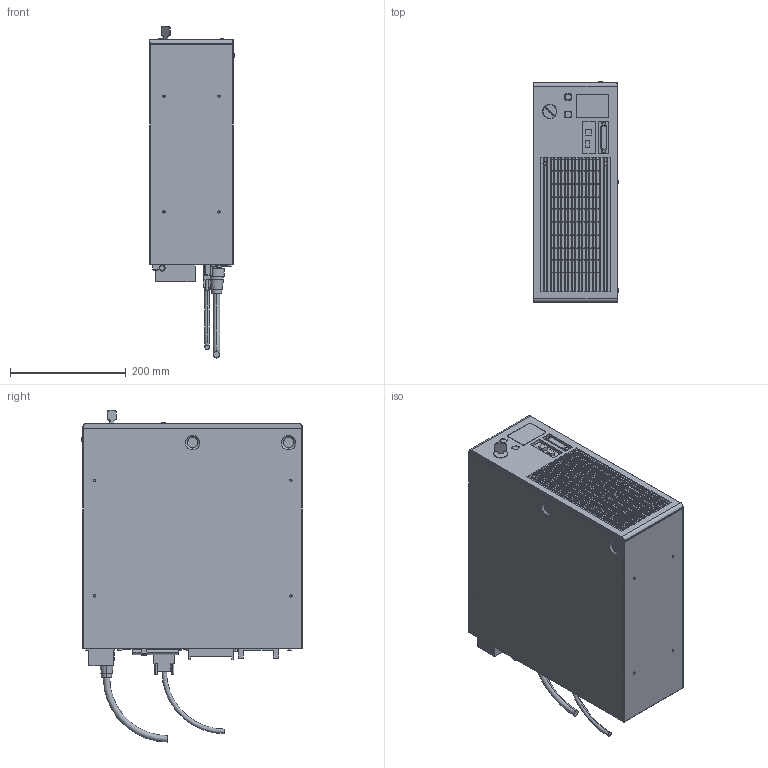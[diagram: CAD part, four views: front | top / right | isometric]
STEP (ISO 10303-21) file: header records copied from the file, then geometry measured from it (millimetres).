
FILE_DESCRIPTION (( 'STEP AP203' ), '1' );
FILE_NAME ('lp-zv20xpc_zv50xpc.STEP', '2023-06-02T08:41:52', ( '' ), ( '' ), 'SwSTEP 2.0', 'SolidWorks 2019', '' );
FILE_SCHEMA (( 'CONFIG_CONTROL_DESIGN' ));
Length unit declared in the file: millimetre
Products named in the file (1): lp-zv20xpc_zv50xpc
Bounding box: 147 x 382 x 574.5 mm (x, y, z)
Volume: 21524892.3 mm3; surface area: 605311.3 mm2
Topology: 1 solids, 1 shells, 1250 faces, 3412 edges, 2088 vertices
Faces by surface type: plane 895, cylinder 325, torus 8, sphere 8, bspline 8, cone 6
Entity records: 39758 total; most frequent: CARTESIAN_POINT 7473, ORIENTED_EDGE 6808, DIRECTION 6559, EDGE_CURVE 3404, LINE 2679, VECTOR 2679, VERTEX_POINT 2088, AXIS2_PLACEMENT_3D 1940
